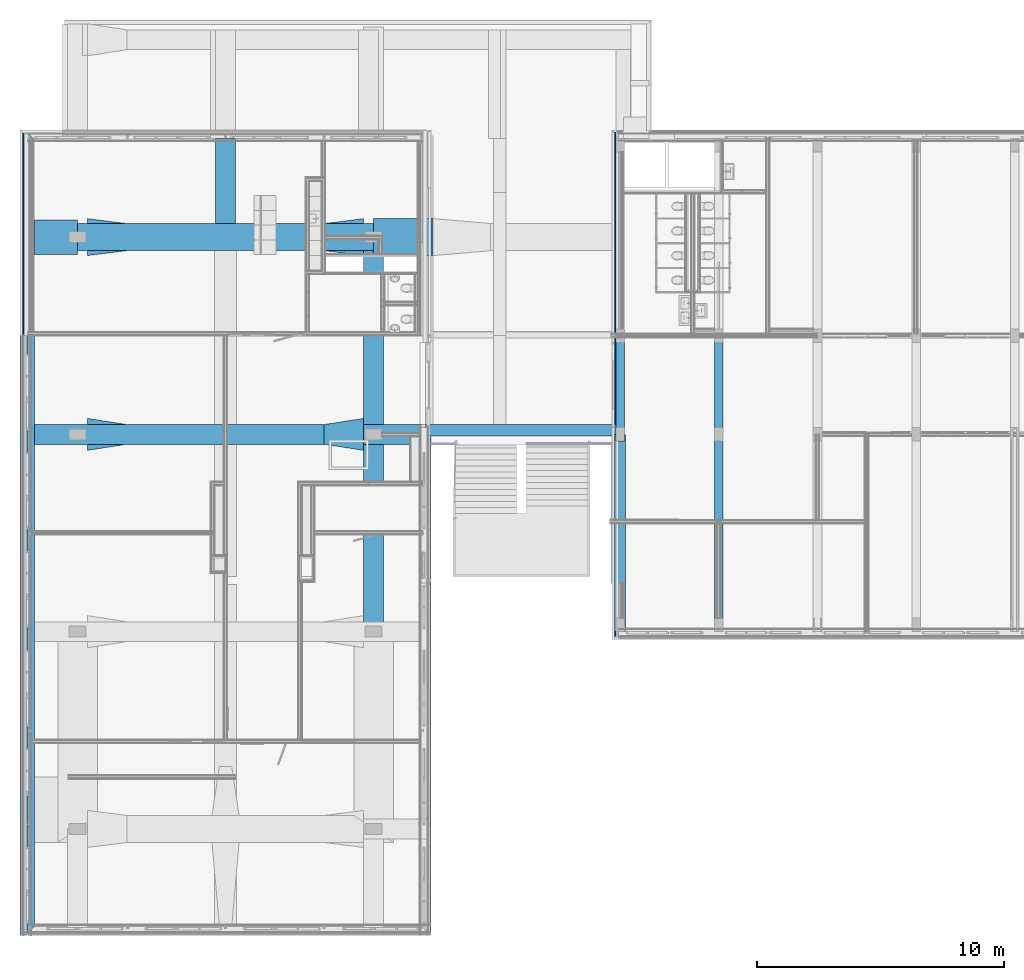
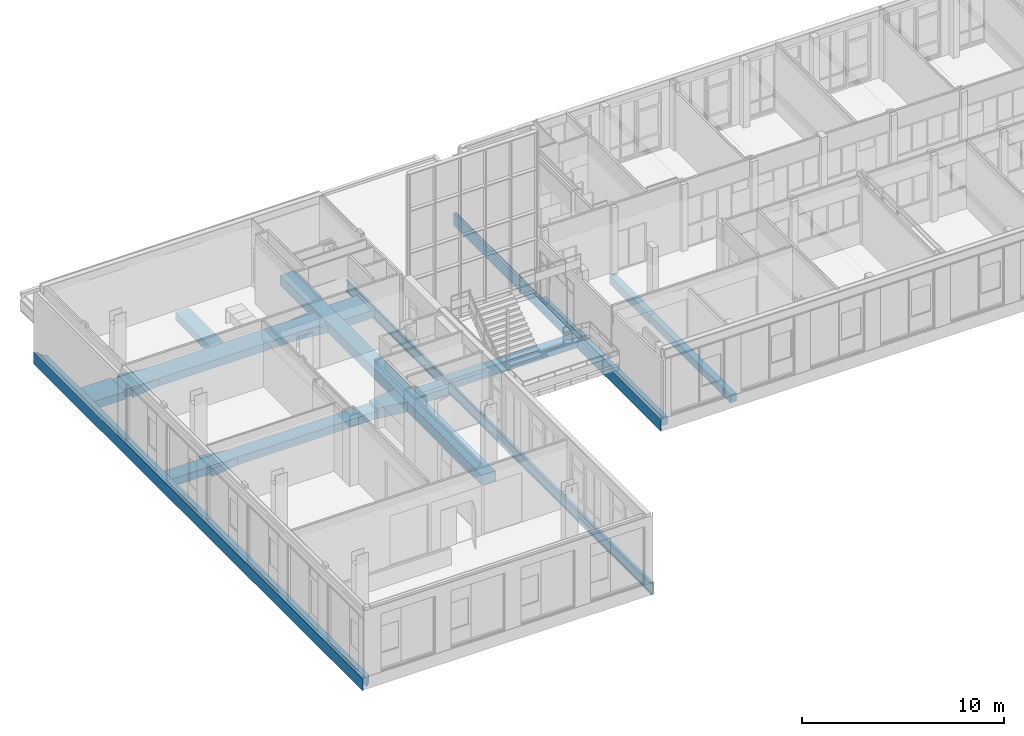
# One storey, part 18 of 94: 19 beams.
"""IFC2X3 building model written with IfcOpenShell, lengths in millimetres."""

from ifc_helpers import new_model, entity, si_unit, converted_unit, derived_unit, money_unit, direction, frame, origin_with_axes, place, context, subcontext, project, spatial, faceted_brep, material, type_object, element, save


model = new_model("IFC2X3")

# Units and contexts
model_context = context("Model", 3, precision=0.01, world=origin_with_axes(), true_north=direction((0.0, 1.0)))
body_context = subcontext(model_context, "Body", "Model", "MODEL_VIEW")
ifc_project = project(units=[si_unit("LENGTHUNIT", "METRE", prefix="MILLI"), si_unit("AREAUNIT", "SQUARE_METRE"), si_unit("VOLUMEUNIT", "CUBIC_METRE"), converted_unit("PLANEANGLEUNIT", "DEGREE", entity("IfcPlaneAngleMeasure", 0.0174532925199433), si_unit("PLANEANGLEUNIT", "RADIAN"), dimensions=[0, 0, 0, 0, 0, 0, 0]), money_unit("EUR"), converted_unit("TIMEUNIT", "Year", entity("IfcTimeMeasure", 31557600.0), si_unit("TIMEUNIT", "SECOND"), dimensions=[0, 0, 1, 0, 0, 0, 0]), si_unit("MASSUNIT", "GRAM", prefix="KILO"), si_unit("THERMODYNAMICTEMPERATUREUNIT", "DEGREE_CELSIUS"), si_unit("LUMINOUSINTENSITYUNIT", "LUMEN"), si_unit("ENERGYUNIT", "JOULE", prefix="MEGA"), derived_unit("THERMALCONDUCTANCEUNIT", [(si_unit("POWERUNIT", "WATT"), 1), (si_unit("LENGTHUNIT", "METRE"), -1), (si_unit("THERMODYNAMICTEMPERATUREUNIT", "KELVIN"), -1)]), derived_unit("SPECIFICHEATCAPACITYUNIT", [(si_unit("ENERGYUNIT", "JOULE"), 1), (si_unit("MASSUNIT", "GRAM", prefix="KILO"), -1), (si_unit("THERMODYNAMICTEMPERATUREUNIT", "KELVIN"), -1)]), derived_unit("MASSDENSITYUNIT", [(si_unit("MASSUNIT", "GRAM", prefix="KILO"), 1), (si_unit("VOLUMEUNIT", "CUBIC_METRE"), -1)])], contexts=[model_context])

# Site, building, storey
site_placement = place(None, origin_with_axes())
site = spatial("IfcSite", under=ifc_project, at=site_placement, Name="<site naam>", CompositionType="ELEMENT")
building_placement = place(site_placement, origin_with_axes())
building = spatial("IfcBuilding", under=site, at=building_placement, Name="<Naam gebouw>", CompositionType="ELEMENT")
storey_placement = place(building_placement, frame((0.0, 0.0, 4250.0), z_axis=(0.0, 0.0, 1.0), x_axis=(1.0, 0.0, 0.0)))
storey = spatial("IfcBuildingStorey", under=building, at=storey_placement, Name="01 1e verdieping", CompositionType="ELEMENT", Elevation=4250.0)

# Beams
ifc_material_1 = material(Name="beton_gewapend C")
beam_type_1 = type_object("IfcBeamType", Name="beton_gewapend C 350 x 650", PredefinedType="BEAM")
beam_1_placement = place(storey_placement, frame((11999.99995202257, 11999.9999539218, -29.99999999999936), z_axis=(0.0, 0.0, 1.0), x_axis=(-1.0, 0.0, 0.0)))
element("IfcBeam", 1, at=beam_1_placement, inside=storey, type_object=beam_type_1, material=ifc_material_1, Name="28_Balk_beton_gewapend", ObjectType="BEAM", context=body_context, shape_type="Brep", body=[
    faceted_brep([(175.0000000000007, 0.0, -650.0000000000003), (175.0000000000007, 0.0, -120.000000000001), (-175.0000000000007, 0.0, -120.000000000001), (-175.0000000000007, 0.0, -650.0000000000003), (175.0000000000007, 4275.000000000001, -650.0000000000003), (175.0000000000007, 4275.000000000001, -120.000000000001), (-175.0000000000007, 4275.000000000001, -120.000000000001), (-175.0000000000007, 4275.000000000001, -650.0000000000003)], [[[0, 1, 2, 3]], [[4, 5, 1, 0]], [[5, 6, 2, 1]], [[3, 2, 6, 7]], [[7, 4, 0, 3]], [[7, 6, 5, 4]]]),
])
beam_2_placement = place(storey_placement, frame((16000.00000000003, 12000.00000000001, -29.99999999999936), z_axis=(0.0, 0.0, 1.0), x_axis=(-1.0, 0.0, 0.0)))
element("IfcBeam", 2, at=beam_2_placement, inside=storey, type_object=beam_type_1, material=ifc_material_1, Name="28_Balk_beton_gewapend", ObjectType="BEAM", context=body_context, shape_type="Brep", body=[
    faceted_brep([(-25.00000000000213, 0.0, -650.0000000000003), (-25.00000000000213, 0.0, -120.000000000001), (-175.0000000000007, 0.0, -120.000000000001), (-175.0000000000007, 0.0, -650.0000000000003), (-25.00000000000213, 224.999999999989, -650.0000000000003), (-25.00000000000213, 224.999999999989, -120.000000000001), (175.0000000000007, 4000.0, -120.000000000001), (-175.0000000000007, 4000.0, -120.000000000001), (24.9999999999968, 224.999999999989, -120.000000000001), (24.9999999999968, 0.0, -120.000000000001), (175.0000000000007, 0.0, -120.000000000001), (-175.0000000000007, 4000.0, -650.0000000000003), (24.9999999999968, 0.0, -650.0000000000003), (24.9999999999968, 224.999999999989, -650.0000000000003), (175.0000000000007, 4000.0, -650.0000000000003), (175.0000000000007, 0.0, -650.0000000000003)], [[[0, 1, 2, 3]], [[4, 5, 1, 0]], [[6, 7, 2, 1, 5, 8, 9, 10]], [[3, 2, 7, 11]], [[12, 13, 4, 0, 3, 11, 14, 15]], [[13, 8, 5, 4]], [[11, 7, 6, 14]], [[12, 9, 8, 13]], [[15, 10, 9, 12]], [[14, 6, 10, 15]]]),
])
ifc_material_2 = material(Name="beton_gewapend_prefab")
beam_type_2 = type_object("IfcBeamType", Name="Betonbanden 160 x 760", PredefinedType="BEAM")
beam_3_placement = place(storey_placement, frame((11725.00000000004, 20265.00000000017, 59.99993649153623), z_axis=(0.0, 0.0, 1.0), x_axis=(-1.0, 0.0, 0.0)))
element("IfcBeam", 3, at=beam_3_placement, inside=storey, type_object=beam_type_2, material=ifc_material_2, Name="41_Balk_Betonbanden", ObjectType="BEAM", context=body_context, shape_type="Brep", body=[
    faceted_brep([(-100.0000071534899, 20430.01688680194, 0.0), (-100.0000071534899, 20430.01688680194, -89.99993649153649), (-100.0000071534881, 5.329070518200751e-10, -89.99993649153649), (-100.0000071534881, 0.0, 0.0), (-10.49999999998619, 20519.51689395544, -100.0000001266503), (-10.49999999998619, 20519.51689395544, -89.99993649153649), (-60.00000030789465, 20470.01689364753, 0.0), (-60.00000030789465, 20470.01689364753, -30.00000230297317), (59.99999757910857, 20590.01689153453, -30.00000230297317), (59.99999757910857, 20590.01689153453, -759.9999375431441), (29.99999527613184, 20560.01688923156, -759.9999375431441), (29.99999527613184, 20560.01688923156, -730.0000145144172), (4.298055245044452e-06, 20530.01689825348, -730.0000145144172), (4.298055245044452e-06, 20530.01689825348, -759.9999375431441), (-60.00000030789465, 20470.01689364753, -759.9999375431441), (-60.00000030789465, 20470.01689364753, -660.0000280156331), (-29.99999800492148, 20500.01689595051, -660.0000280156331), (-29.99999800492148, 20500.01689595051, -690.0000385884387), (4.298055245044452e-06, 20530.01689825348, -690.0000385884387), (4.298055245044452e-06, 20530.01689825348, -100.0000001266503), (-10.49999999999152, 5.329070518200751e-10, -89.99993649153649), (-10.49999999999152, 5.329070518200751e-10, -100.0000001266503), (4.298053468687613e-06, 0.0, -100.0000001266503), (4.298053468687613e-06, 0.0, -690.0000385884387), (-29.9999980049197, 0.0, -690.0000385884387), (-29.9999980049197, 0.0, -660.0000280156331), (-60.00000030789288, 0.0, -660.0000280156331), (-60.00000030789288, 0.0, -759.9999375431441), (4.298053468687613e-06, 0.0, -759.9999375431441), (4.298053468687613e-06, 0.0, -730.0000145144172), (29.99999527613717, 0.0, -730.0000145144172), (29.99999527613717, 0.0, -759.9999375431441), (59.99999757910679, 0.0, -759.9999375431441), (59.99999757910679, 0.0, -30.00000230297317), (-60.00000030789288, 0.0, -30.00000230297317), (-60.00000030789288, 0.0, 0.0)], [[[0, 1, 2, 3]], [[4, 5, 1, 0, 6, 7, 8, 9, 10, 11, 12, 13, 14, 15, 16, 17, 18, 19]], [[5, 20, 2, 1]], [[2, 20, 21, 22, 23, 24, 25, 26, 27, 28, 29, 30, 31, 32, 33, 34, 35, 3]], [[3, 35, 6, 0]], [[4, 21, 20, 5]], [[35, 34, 7, 6]], [[34, 33, 8, 7]], [[33, 32, 9, 8]], [[32, 31, 10, 9]], [[31, 30, 11, 10]], [[30, 29, 12, 11]], [[29, 28, 13, 12]], [[28, 27, 14, 13]], [[27, 26, 15, 14]], [[26, 25, 16, 15]], [[25, 24, 17, 16]], [[24, 23, 18, 17]], [[23, 22, 19, 18]], [[22, 21, 4, 19]]]),
])
beam_4_placement = place(storey_placement, frame((4275.044468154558, -12274.99008809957, 19.99999999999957), z_axis=(0.0, 0.0, 1.0), x_axis=(1.0, 0.0, 0.0)))
element("IfcBeam", 4, at=beam_4_placement, inside=storey, type_object=beam_type_2, material=ifc_material_2, Name="41_Balk_Betonbanden", ObjectType="BEAM", context=body_context, shape_type="Brep", body=[
    faceted_brep([(-100.0000071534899, 14253.3476713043, 0.0), (-60.00000030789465, 14253.3476713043, 0.0), (-60.00000030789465, 30274.99008809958, 0.0), (-100.0000071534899, 30274.99008809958, 0.0), (-100.0000071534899, 14253.3476713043, -19.99999999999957), (-60.00000030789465, 14253.3476713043, -19.99999999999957), (-60.00000030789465, 0.0, -19.99999999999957), (-60.00000030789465, 0.0, -30.00000230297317), (-60.00000030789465, 30274.99008809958, -30.00000230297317), (59.99999757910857, 30274.99008809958, -30.00000230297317), (59.99999757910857, 30274.99008809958, -49.99999999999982), (-100.0000071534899, 30274.99008809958, -49.99999999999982), (-100.0000071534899, 0.0, -19.99999999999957), (-100.0000071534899, 24274.99008809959, -49.99999999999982), (-100.0000071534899, 0.0, -49.99999999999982), (-2.420891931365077e-06, 0.0, -49.99999999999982), (-2.420891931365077e-06, 0.0, -100.0000001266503), (4.298053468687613e-06, 0.0, -690.0000385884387), (-29.9999980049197, 0.0, -690.0000385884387), (-29.9999980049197, 0.0, -660.0000280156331), (-60.00000030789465, 0.0, -660.0000280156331), (-60.00000030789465, 0.0, -759.9999375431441), (4.298053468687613e-06, 0.0, -759.9999375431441), (4.298053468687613e-06, 0.0, -730.0000145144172), (29.99999527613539, 0.0, -730.0000145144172), (29.99999527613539, 0.0, -759.9999375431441), (59.99999757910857, 0.0, -759.9999375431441), (59.99999757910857, 0.0, -30.00000230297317), (59.99999757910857, 30274.99008809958, -169.9999999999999), (59.99999757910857, 24274.99008809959, -169.9999999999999), (59.99999757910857, 24274.99008809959, -200.0000000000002), (59.99999757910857, 19846.52497822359, -200.0000000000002), (59.99999757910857, 19846.52497822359, -49.99999999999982), (59.99999757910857, 24274.99008809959, -49.99999999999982), (59.99999757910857, 30274.99008809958, -759.9999375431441), (-2.420891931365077e-06, 19846.52497822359, -49.99999999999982), (-2.420891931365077e-06, 19846.52497822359, -100.0000001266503), (-2.420891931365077e-06, 19846.52497822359, -200.0000000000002), (4.298053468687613e-06, 24274.99008809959, -200.0000000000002), (4.298053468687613e-06, 24274.99008809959, -169.9999999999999), (4.298053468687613e-06, 30274.99008809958, -169.9999999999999), (4.298053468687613e-06, 30274.99008809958, -690.0000385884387), (-29.9999980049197, 30274.99008809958, -690.0000385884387), (-29.9999980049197, 30274.99008809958, -660.0000280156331), (-60.00000030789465, 30274.99008809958, -660.0000280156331), (-60.00000030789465, 30274.99008809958, -759.9999375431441), (4.298053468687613e-06, 30274.99008809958, -759.9999375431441), (4.298053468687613e-06, 30274.99008809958, -730.0000145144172), (29.99999527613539, 30274.99008809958, -730.0000145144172), (29.99999527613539, 30274.99008809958, -759.9999375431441)], [[[0, 1, 2, 3]], [[4, 5, 1, 0]], [[1, 5, 6, 7, 8, 2]], [[2, 8, 9, 10, 11, 3]], [[12, 4, 0, 3, 11, 13, 14]], [[12, 6, 5, 4]], [[7, 6, 12, 14, 15, 16, 17, 18, 19, 20, 21, 22, 23, 24, 25, 26, 27]], [[9, 8, 7, 27]], [[28, 29, 30, 31, 32, 33, 10, 9, 27, 26, 34]], [[13, 11, 10, 33]], [[35, 15, 14, 13, 33, 32]], [[16, 15, 35, 36]], [[16, 36, 37, 38, 39, 40, 41, 17]], [[41, 42, 18, 17]], [[42, 43, 19, 18]], [[43, 44, 20, 19]], [[44, 45, 21, 20]], [[45, 46, 22, 21]], [[46, 47, 23, 22]], [[47, 48, 24, 23]], [[48, 49, 25, 24]], [[49, 34, 26, 25]], [[29, 28, 40, 39]], [[29, 39, 38, 30]], [[30, 38, 37, 31]], [[37, 36, 35, 32, 31]], [[43, 42, 41, 40, 28, 34, 49, 48, 47, 46, 45, 44]]]),
])
beam_5_placement = place(storey_placement, frame((-12264.99999999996, 20275.00000000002, 19.99999999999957), z_axis=(0.0, 0.0, 1.0), x_axis=(-1.0, 0.0, 0.0)))
element("IfcBeam", 5, at=beam_5_placement, inside=storey, type_object=beam_type_2, material=ifc_material_2, Name="41_Balk_Betonbanden", ObjectType="BEAM", context=body_context, shape_type="Brep", body=[
    faceted_brep([(-60.00000030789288, 60.0000003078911, 0.0), (-60.00000030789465, 8275.000000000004, 0.0), (-100.0000071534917, 8274.999938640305, 0.0), (-100.0000071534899, 100.0000071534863, 0.0), (-60.00000030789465, 32482.03171903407, -19.99999999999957), (-60.00000030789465, 8275.000000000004, -19.99999999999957), (-60.00000030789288, 60.0000003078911, -30.00000230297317), (-60.00000030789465, 32482.03171903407, -30.00000230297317), (-100.0000071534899, 8274.999991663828, -19.99999999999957), (-100.0000071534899, 32442.03171218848, -19.99999999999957), (-100.0000071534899, 32442.03171218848, -49.99999999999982), (-100.0000071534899, 100.0000071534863, -49.99999999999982), (-30.00000000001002, 30.00000000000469, -49.99999999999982), (-30.00000000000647, 30.00000000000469, -100.0000001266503), (4.298053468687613e-06, -4.298055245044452e-06, -100.0000001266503), (4.298053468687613e-06, -4.298055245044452e-06, -690.0000385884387), (-29.9999980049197, 29.99999800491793, -690.0000385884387), (-29.9999980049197, 29.99999800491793, -660.0000280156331), (-60.00000030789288, 60.0000003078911, -660.0000280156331), (-60.00000030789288, 60.0000003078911, -759.9999375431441), (4.298053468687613e-06, -4.298055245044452e-06, -759.9999375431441), (4.298053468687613e-06, -4.298055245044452e-06, -730.0000145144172), (29.99999527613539, -29.99999527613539, -730.0000145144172), (29.99999527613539, -29.99999527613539, -759.9999375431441), (59.99999757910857, -59.99999757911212, -759.9999375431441), (59.99999757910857, -59.99999757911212, -30.00000230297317), (59.99999757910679, 32602.03171692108, -30.00000230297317), (59.99999757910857, 32602.03171692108, -759.9999375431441), (29.99999527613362, 32572.0317146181, -759.9999375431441), (29.99999527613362, 32572.0317146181, -730.0000145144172), (4.298053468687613e-06, 32542.03172364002, -730.0000145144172), (4.298053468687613e-06, 32542.03172364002, -759.9999375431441), (-60.00000030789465, 32482.03171903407, -759.9999375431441), (-60.00000030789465, 32482.03171903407, -660.0000280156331), (-29.9999980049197, 32512.03172133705, -660.0000280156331), (-29.9999980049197, 32512.03172133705, -690.0000385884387), (4.298053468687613e-06, 32542.03172364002, -690.0000385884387), (4.298053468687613e-06, 32542.03172364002, -200.0000000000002), (7.958368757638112, 32549.9900880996, -200.0000000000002), (7.958368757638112, 32549.9900880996, -49.99999999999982), (10.00000000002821, 32549.9900880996, -49.99999999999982), (9.999999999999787, 30.00000000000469, -49.99999999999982), (9.999999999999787, 30.00000000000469, -200.0000000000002), (4.298053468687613e-06, 30.00000000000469, -200.0000000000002), (4.298053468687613e-06, 30.00000000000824, -100.0000001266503), (10.00000000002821, 32549.9900880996, -200.0000000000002)], [[[0, 1, 2, 3]], [[4, 5, 1, 0, 6, 7]], [[8, 2, 1, 5]], [[2, 8, 9, 10, 11, 3]], [[0, 3, 11, 12, 13, 14, 15, 16, 17, 18, 19, 20, 21, 22, 23, 24, 25, 6]], [[8, 5, 4, 9]], [[26, 7, 6, 25]], [[9, 4, 7, 26, 27, 28, 29, 30, 31, 32, 33, 34, 35, 36, 37, 38, 39, 10]], [[39, 40, 41, 12, 11, 10]], [[42, 43, 44, 13, 12, 41]], [[13, 44, 14]], [[15, 14, 44, 43, 37, 36]], [[36, 35, 16, 15]], [[35, 34, 17, 16]], [[34, 33, 18, 17]], [[33, 32, 19, 18]], [[32, 31, 20, 19]], [[31, 30, 21, 20]], [[30, 29, 22, 21]], [[29, 28, 23, 22]], [[28, 27, 24, 23]], [[27, 26, 25, 24]], [[42, 45, 38, 37, 43]], [[38, 45, 40, 39]], [[41, 40, 45, 42]]]),
])
beam_type_3 = type_object("IfcBeamType", Name="beton_gewapend C 350 x 600", PredefinedType="BEAM")
beam_6_placement = place(storey_placement, frame((16000.00000000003, 8000.000000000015, -29.99999999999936), z_axis=(0.0, 0.0, 1.0), x_axis=(-1.0, 0.0, 0.0)))
element("IfcBeam", 6, at=beam_6_placement, inside=storey, type_object=beam_type_3, material=ifc_material_1, Name="28_Balk_beton_gewapend", ObjectType="BEAM", context=body_context, shape_type="Brep", body=[
    faceted_brep([(175.0000000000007, 0.0, -600.0000000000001), (175.0000000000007, 0.0, -120.000000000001), (-175.0000000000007, 0.0, -120.000000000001), (-175.0000000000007, 0.0, -600.0000000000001), (175.0000000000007, 8000.000000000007, -600.0000000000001), (175.0000000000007, 8000.000000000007, -120.000000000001), (-175.0000000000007, 8000.000000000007, -120.000000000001), (-175.0000000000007, 8000.000000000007, -600.0000000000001)], [[[0, 1, 2, 3]], [[4, 5, 1, 0]], [[5, 6, 2, 1]], [[3, 2, 6, 7]], [[0, 3, 7, 4]], [[7, 6, 5, 4]]]),
])
beam_type_4 = type_object("IfcBeamType", Name="beton_gewapend C 440 x 600", PredefinedType="BEAM")
beam_7_placement = place(storey_placement, frame((11999.99995202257, 7999.999953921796, -29.99999999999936), z_axis=(0.0, 0.0, 1.0), x_axis=(-1.0, 0.0, 0.0)))
element("IfcBeam", 7, at=beam_7_placement, inside=storey, type_object=beam_type_4, material=ifc_material_1, Name="28_Balk_beton_gewapend", ObjectType="BEAM", context=body_context, shape_type="Brep", body=[
    faceted_brep([(-175.0000000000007, 0.0, -600.0000000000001), (-175.0000000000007, 0.0, -120.000000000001), (-220.0000000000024, 0.0, -120.000000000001), (-220.0000000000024, 0.0, -600.0000000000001), (-175.0000000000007, 275.0000000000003, -600.0000000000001), (-175.0000000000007, 275.0000000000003, -120.000000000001), (219.9999999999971, 8000.000000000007, -120.000000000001), (-220.0000000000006, 8000.000000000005, -120.000000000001), (174.9999464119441, 275.0000000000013, -120.000000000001), (174.9999464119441, 0.0, -120.000000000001), (220.0000000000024, 0.0, -120.000000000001), (-220.0000000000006, 8000.000000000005, -600.0000000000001), (174.9999520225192, 8000.000000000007, -600.0000000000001), (174.999952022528, 275.0000000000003, -600.0000000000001), (174.999952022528, 275.000000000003, -520.0000000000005), (219.9999999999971, 8000.000000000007, -520.0000000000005), (174.9999520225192, 8000.000000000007, -520.0000000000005), (174.999952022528, 0.0, -520.0000000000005), (220.0000000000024, 0.0, -520.0000000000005)], [[[0, 1, 2, 3]], [[4, 5, 1, 0]], [[6, 7, 2, 1, 5, 8, 9, 10]], [[3, 2, 7, 11]], [[3, 11, 12, 13, 4, 0]], [[14, 8, 5, 4, 13]], [[11, 7, 6, 15, 16, 12]], [[17, 9, 8, 14]], [[18, 10, 9, 17]], [[15, 6, 10, 18]], [[12, 16, 14, 13]], [[16, 15, 18, 17, 14]]]),
])
beam_type_5 = type_object("IfcBeamType", Name="beton_gewapend C 1500 x 620", PredefinedType="BEAM")
beam_8_placement = place(storey_placement, frame((-7999.999999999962, 16000.0, -30.00000000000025), z_axis=(0.0, 0.0, 1.0), x_axis=(0.0, 1.0, 0.0)))
element("IfcBeam", 8, at=beam_8_placement, inside=storey, type_object=beam_type_5, material=ifc_material_1, Name="28_Balk_beton_gewapend", ObjectType="BEAM", context=body_context, shape_type="Brep", body=[
    faceted_brep([(-550.0000000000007, 1600.000000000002, -620.0000000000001), (-550.0000000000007, 1600.0, -150.0000000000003), (-549.9999999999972, 0.0, -150.0000000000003), (-549.9999999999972, 0.0, -620.0000000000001), (-750.0, 1600.000000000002, -620.0000000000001), (-750.0, 1600.000000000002, -150.0000000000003)], [[[0, 1, 2, 3]], [[4, 5, 1, 0]], [[1, 5, 2]], [[3, 2, 5, 4]], [[0, 3, 4]]]),
    faceted_brep([(750.0, 1600.000000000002, -620.0000000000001), (750.0, 1600.000000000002, -150.0000000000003), (550.0000000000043, 0.0, -150.0000000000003), (550.0000000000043, 0.0, -620.0000000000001), (550.0000000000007, 1600.000000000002, -620.0000000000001), (550.0000000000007, 1600.000000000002, -150.0000000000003)], [[[0, 1, 2, 3]], [[4, 5, 1, 0]], [[1, 5, 2]], [[3, 2, 5, 4]], [[3, 4, 0]]]),
])
beam_9_placement = place(storey_placement, frame((2000.000000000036, 16000.0, -30.00000000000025), z_axis=(0.0, 0.0, 1.0), x_axis=(0.0, -1.0, 0.0)))
element("IfcBeam", 9, at=beam_9_placement, inside=storey, type_object=beam_type_5, material=ifc_material_1, Name="28_Balk_beton_gewapend", ObjectType="BEAM", context=body_context, shape_type="Brep", body=[
    faceted_brep([(-750.0, 0.0, -620.0000000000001), (-750.0, 0.0, -150.0000000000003), (-750.0, 2130.924628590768, -150.0000000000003), (-750.0, 2130.924628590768, -120.0000000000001), (-750.0, 2275.044472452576, -120.0000000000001), (-750.0, 2275.044472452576, -620.0000000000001), (-750.0, 2245.044470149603, -620.0000000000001), (-750.0, 2245.044470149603, -610.0000280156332), (-750.0, 2215.044467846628, -610.0000280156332), (-750.0, 2215.044467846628, -620.0000000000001), (750.0, 0.0, -620.0000000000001), (750.0, 0.0, -150.0000000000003), (750.0, 2130.924628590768, -150.0000000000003), (750.0, 2130.924628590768, -120.0000000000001), (750.0, 2275.044472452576, -120.0000000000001), (750.0, 2275.044472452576, -620.0000000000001), (750.0, 2245.044470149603, -620.0000000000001), (750.0, 2245.044470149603, -610.0000280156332), (750.0, 2215.044467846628, -610.0000280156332), (750.0, 2215.044467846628, -620.0000000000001)], [[[0, 1, 2, 3, 4, 5, 6, 7, 8, 9]], [[10, 11, 1, 0]], [[12, 2, 1, 11]], [[12, 13, 3, 2]], [[4, 3, 13, 14]], [[5, 4, 14, 15]], [[16, 6, 5, 15]], [[16, 17, 7, 6]], [[17, 18, 8, 7]], [[18, 19, 9, 8]], [[10, 0, 9, 19]], [[13, 12, 11, 10, 19, 18, 17, 16, 15, 14]]]),
    faceted_brep([(-750.0, 2335.044465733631, -620.0000000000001), (-750.0, 2335.044465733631, -120.0000000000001), (-750.0, 2414.999999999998, -120.0000000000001), (-750.0, 2414.999999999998, -620.0000000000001), (750.0, 2335.044465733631, -620.0000000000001), (750.0, 2335.044465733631, -120.0000000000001), (750.0, 2414.999999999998, -120.0000000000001), (750.0, 2414.999999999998, -620.0000000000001)], [[[0, 1, 2, 3]], [[4, 5, 1, 0]], [[5, 6, 2, 1]], [[3, 2, 6, 7]], [[3, 7, 4, 0]], [[7, 6, 5, 4]]]),
])
beam_10_placement = place(storey_placement, frame((0.0, 16000.0, -30.00000000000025), z_axis=(0.0, 0.0, 1.0), x_axis=(0.0, -1.0, 0.0)))
element("IfcBeam", 10, at=beam_10_placement, inside=storey, type_object=beam_type_5, material=ifc_material_1, Name="28_Balk_beton_gewapend", ObjectType="BEAM", context=body_context, shape_type="Brep", body=[
    faceted_brep([(549.999999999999, 0.0, -620.0000000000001), (549.999999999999, 0.0, -150.0000000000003), (549.999999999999, 1600.000000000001, -150.0000000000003), (549.999999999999, 1600.000000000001, -620.0000000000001), (750.0, 1600.000000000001, -620.0000000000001), (750.0, 1600.000000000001, -150.0000000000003)], [[[0, 1, 2, 3]], [[4, 5, 1, 0]], [[1, 5, 2]], [[3, 2, 5, 4]], [[0, 3, 4]]]),
    faceted_brep([(-550.0000000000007, 0.0, -620.0000000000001), (-550.0000000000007, 0.0, -150.0000000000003), (-750.0, 1600.000000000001, -150.0000000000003), (-750.0, 1600.000000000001, -620.0000000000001), (-550.0000000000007, 1600.000000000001, -620.0000000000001), (-550.0000000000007, 1600.000000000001, -150.0000000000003)], [[[0, 1, 2, 3]], [[4, 5, 1, 0]], [[1, 5, 2]], [[3, 2, 5, 4]], [[4, 0, 3]]]),
])
beam_type_6 = type_object("IfcBeamType", Name="beton_gewapend C 800 x 620", PredefinedType="BEAM")
beam_11_placement = place(storey_placement, frame((-11894.99999999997, 8000.000000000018, -30.00000000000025), z_axis=(0.0, 0.0, 1.0), x_axis=(0.0, -1.0, 0.0)))
element("IfcBeam", 11, at=beam_11_placement, inside=storey, type_object=beam_type_6, material=ifc_material_1, Name="28_Balk_beton_gewapend", ObjectType="BEAM", context=body_context, shape_type="Brep", body=[
    faceted_brep([(-400.0000000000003, 150.0000000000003, -620.0000000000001), (-400.0000000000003, 150.0000000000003, -150.0000000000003), (-400.0000000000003, 15990.00000000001, -150.0000000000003), (-400.0000000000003, 15990.00000000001, -620.0000000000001), (400.0000000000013, 149.9999999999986, -620.0000000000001), (400.0000000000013, 149.9999999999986, -150.0000000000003), (399.9999999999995, 15990.00000000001, -150.0000000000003), (399.9999999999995, 15990.00000000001, -620.0000000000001)], [[[0, 1, 2, 3]], [[4, 5, 1, 0]], [[5, 6, 2, 1]], [[3, 2, 6, 7]], [[3, 7, 4, 0]], [[7, 6, 5, 4]]]),
])
beam_12_placement = place(storey_placement, frame((2000.000000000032, 20000.00000000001, -30.00000000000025), z_axis=(0.0, 0.0, 1.0), x_axis=(-1.0, 0.0, 0.0)))
element("IfcBeam", 12, at=beam_12_placement, inside=storey, type_object=beam_type_6, material=ifc_material_1, Name="28_Balk_beton_gewapend", ObjectType="BEAM", context=body_context, shape_type="Brep", body=[
    faceted_brep([(-399.9999999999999, 0.0, -620.0000000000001), (-399.9999999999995, 19999.99999999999, -620.0000000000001), (400.0000000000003, 19999.99999999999, -620.0000000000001), (399.9999999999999, 0.0, -620.0000000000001), (-399.9999999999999, 0.0, 0.0), (-399.9999999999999, 19999.99999999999, 0.0), (400.0000000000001, 19999.99999999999, 0.0), (399.9999999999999, 0.0, 0.0)], [[[0, 1, 2, 3]], [[4, 5, 1, 0]], [[2, 1, 5, 6]], [[3, 2, 6, 7]], [[4, 0, 3, 7]], [[7, 6, 5, 4]]]),
])
beam_13_placement = place(storey_placement, frame((-3999.999999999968, 20000.00000000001, -30.00000000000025), z_axis=(0.0, 0.0, 1.0), x_axis=(-1.0, 0.0, 0.0)))
element("IfcBeam", 13, at=beam_13_placement, inside=storey, type_object=beam_type_6, material=ifc_material_1, Name="28_Balk_beton_gewapend", ObjectType="BEAM", context=body_context, shape_type="Brep", body=[
    faceted_brep([(399.9999999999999, 0.0, -620.0000000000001), (399.9999999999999, 0.0, -150.0000000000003), (-399.9999999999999, 0.0, -150.0000000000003), (-399.9999999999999, 0.0, -620.0000000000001), (399.999999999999, 3450.000000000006, -620.0000000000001), (399.9999999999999, 3450.000000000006, -150.0000000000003), (-400.0000000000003, 3450.000000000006, -150.0000000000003), (-400.0000000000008, 3450.000000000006, -620.0000000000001)], [[[0, 1, 2, 3]], [[4, 5, 1, 0]], [[5, 6, 2, 1]], [[3, 2, 6, 7]], [[0, 3, 7, 4]], [[7, 6, 5, 4]]]),
])
beam_type_7 = type_object("IfcBeamType", Name="beton_gewapend C 1100 x 620", PredefinedType="BEAM")
beam_14_placement = place(storey_placement, frame((-9999.999999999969, 16000.0, -30.00000000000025), z_axis=(0.0, 0.0, 1.0), x_axis=(0.0, -1.0, 0.0)))
element("IfcBeam", 14, at=beam_14_placement, inside=storey, type_object=beam_type_7, material=ifc_material_1, Name="28_Balk_beton_gewapend", ObjectType="BEAM", context=body_context, shape_type="Brep", body=[
    faceted_brep([(-550.0000000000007, 0.0, -620.0000000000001), (-550.0000000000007, 0.0, -150.0000000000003), (-550.0000000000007, 12000.00000000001, -150.0000000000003), (-550.0000000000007, 12000.00000000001, -620.0000000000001), (550.0000000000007, 0.0, -620.0000000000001), (550.0000000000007, 0.0, -150.0000000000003), (549.999999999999, 12000.00000000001, -150.0000000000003), (549.999999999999, 12000.00000000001, -620.0000000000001)], [[[0, 1, 2, 3]], [[4, 5, 1, 0]], [[5, 6, 2, 1]], [[3, 2, 6, 7]], [[4, 0, 3, 7]], [[7, 6, 5, 4]]]),
])
beam_type_8 = type_object("IfcBeamType", Name="beton_gewapend C 300 x 620", PredefinedType="BEAM")
beam_15_placement = place(storey_placement, frame((-11894.99999999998, 20095.00000000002, -30.00000000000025), z_axis=(0.0, 0.0, 1.0), x_axis=(-1.0, 0.0, 0.0)))
element("IfcBeam", 15, at=beam_15_placement, inside=storey, type_object=beam_type_8, material=ifc_material_1, Name="28_Balk_beton_gewapend", ObjectType="BEAM", context=body_context, shape_type="Brep", body=[
    faceted_brep([(150.0000000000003, -150.0000019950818, -610.0000280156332), (150.0000000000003, -149.9999999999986, -150.0000000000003), (-150.0000000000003, 149.9999999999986, -150.0000000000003), (-150.0000000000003, 149.9999999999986, -620.0000000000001), (119.9999996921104, -119.9999996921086, -620.0000000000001), (119.9999996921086, -119.9999996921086, -610.0000280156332), (150.0000000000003, 32340.0, -590.0000970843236), (150.0000000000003, 32340.0, -150.0000000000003), (150.0000000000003, -119.9999996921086, -610.0000280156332), (150.0000000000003, -119.9999996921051, -620.0000000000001), (150.0000000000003, 32302.03171903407, -620.0000000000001), (149.9999999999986, 32302.03171903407, -560.000086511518), (150.0000000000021, 32332.03172133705, -560.000086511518), (150.0000000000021, 32332.03172133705, -590.0000970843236), (-150.0000000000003, 32039.99999999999, -150.0000000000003), (-150.0000000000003, 32039.99999999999, -620.0000000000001), (112.0317190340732, 32302.03171903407, -620.0000000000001), (142.0317213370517, 32332.03172133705, -590.0000970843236), (142.0317213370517, 32332.03172133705, -560.000086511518), (112.0317190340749, 32302.03171903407, -560.000086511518)], [[[0, 1, 2, 3, 4, 5]], [[6, 7, 1, 0, 8, 9, 10, 11, 12, 13]], [[7, 14, 2, 1]], [[3, 2, 14, 15]], [[3, 15, 16, 10, 9, 4]], [[4, 9, 8, 5]], [[0, 5, 8]], [[15, 14, 7, 6, 17, 18, 19, 16]], [[11, 10, 16, 19]], [[12, 11, 19, 18]], [[13, 12, 18, 17]], [[6, 13, 17]]]),
])
beam_type_9 = type_object("IfcBeamType", Name="beton_gewapend C 1300 x 620", PredefinedType="BEAM")
beam_16_placement = place(storey_placement, frame((0.0, 8000.000000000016, -30.00000000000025), z_axis=(0.0, 0.0, 1.0), x_axis=(0.0, -1.0, 0.0)))
element("IfcBeam", 16, at=beam_16_placement, inside=storey, type_object=beam_type_9, material=ifc_material_1, Name="28_Balk_beton_gewapend", ObjectType="BEAM", context=body_context, shape_type="Brep", body=[
    faceted_brep([(-650.0000000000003, 1600.000000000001, 0.0), (-400.0000000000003, 0.0, 0.0), (400.0000000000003, 0.0, 0.0), (649.9999999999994, 1600.000000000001, 0.0), (-650.0000000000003, 1600.000000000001, -620.0000000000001), (-400.0000000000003, 0.0, -620.0000000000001), (399.9999999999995, 0.0, -620.0000000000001), (649.9999999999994, 1600.000000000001, -620.0000000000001)], [[[0, 1, 2, 3]], [[4, 5, 1, 0]], [[5, 6, 2, 1]], [[3, 2, 6, 7]], [[4, 0, 3, 7]], [[7, 6, 5, 4]]]),
])
beam_17_placement = place(storey_placement, frame((-7999.999999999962, 8000.000000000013, -30.00000000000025), z_axis=(0.0, 0.0, 1.0), x_axis=(0.0, 1.0, 0.0)))
element("IfcBeam", 17, at=beam_17_placement, inside=storey, type_object=beam_type_9, material=ifc_material_1, Name="28_Balk_beton_gewapend", ObjectType="BEAM", context=body_context, shape_type="Brep", body=[
    faceted_brep([(-399.999999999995, 1600.000000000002, -620.0000000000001), (-399.999999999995, 1600.000000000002, -150.0000000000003), (-399.9999999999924, 0.0, -150.0000000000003), (-399.9999999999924, 0.0, -620.0000000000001), (-650.0000000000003, 1600.000000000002, -620.0000000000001), (-650.0000000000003, 1600.000000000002, -150.0000000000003)], [[[0, 1, 2, 3]], [[4, 5, 1, 0]], [[1, 5, 2]], [[3, 2, 5, 4]], [[0, 3, 4]]]),
    faceted_brep([(650.0000000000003, 1600.0, -620.0000000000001), (650.0000000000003, 1600.0, -150.0000000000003), (400.0000000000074, 0.0, -150.0000000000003), (400.0000000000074, 0.0, -620.0000000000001), (400.0000000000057, 1600.0, -620.0000000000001), (400.0000000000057, 1600.0, -150.0000000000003)], [[[0, 1, 2, 3]], [[4, 5, 1, 0]], [[1, 5, 2]], [[3, 2, 5, 4]], [[3, 4, 0]]]),
])
beam_type_10 = type_object("IfcBeamType", Name="beton_gewapend C 465 x 600", PredefinedType="BEAM")
beam_18_placement = place(storey_placement, frame((4000.000000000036, 7935.000000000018, -30.00000000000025), z_axis=(0.0, 0.0, 1.0), x_axis=(0.0, -1.0, 0.0)))
element("IfcBeam", 18, at=beam_18_placement, inside=storey, type_object=beam_type_10, material=ifc_material_1, Name="28_Balk_beton_gewapend", ObjectType="BEAM", context=body_context, shape_type="Brep", body=[
    faceted_brep([(-464.9999999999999, 8175.000000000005, -600.0000000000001), (-465.0000000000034, 114.9999999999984, -600.0000000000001), (-465.0000000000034, 114.9999999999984, 0.0), (-464.9999999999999, 8175.000000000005, 0.0), (0.0, 8175.000000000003, -600.0000000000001), (0.0, 114.9999999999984, -600.0000000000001), (0.0, 114.9999999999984, 0.0), (0.0, 8175.000000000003, 0.0)], [[[0, 1, 2, 3]], [[4, 5, 1, 0]], [[5, 6, 2, 1]], [[3, 2, 6, 7]], [[7, 4, 0, 3]], [[7, 6, 5, 4]]]),
])
beam_type_11 = type_object("IfcBeamType", Name="beton_gewapend C 1400 x 620", PredefinedType="BEAM")
beam_19_placement = place(storey_placement, frame((-11894.99999999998, 16000.0, -30.00000000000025), z_axis=(0.0, 0.0, 1.0), x_axis=(0.0, -1.0, 0.0)))
element("IfcBeam", 19, at=beam_19_placement, inside=storey, type_object=beam_type_11, material=ifc_material_1, Name="28_Balk_beton_gewapend", ObjectType="BEAM", context=body_context, shape_type="Brep", body=[
    faceted_brep([(-699.9999999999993, 150.0000000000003, -620.0000000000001), (-699.9999999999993, 150.0000000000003, -150.0000000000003), (-699.9999999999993, 1895.000000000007, -150.0000000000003), (-699.9999999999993, 1895.000000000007, -620.0000000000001), (699.9999999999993, 150.0000000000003, -620.0000000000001), (699.9999999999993, 150.0000000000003, -150.0000000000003), (699.9999999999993, 1895.000000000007, -150.0000000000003), (699.9999999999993, 1895.000000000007, -620.0000000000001)], [[[0, 1, 2, 3]], [[4, 5, 1, 0]], [[5, 6, 2, 1]], [[3, 2, 6, 7]], [[3, 7, 4, 0]], [[7, 6, 5, 4]]]),
])

save(model, "model.ifc")
